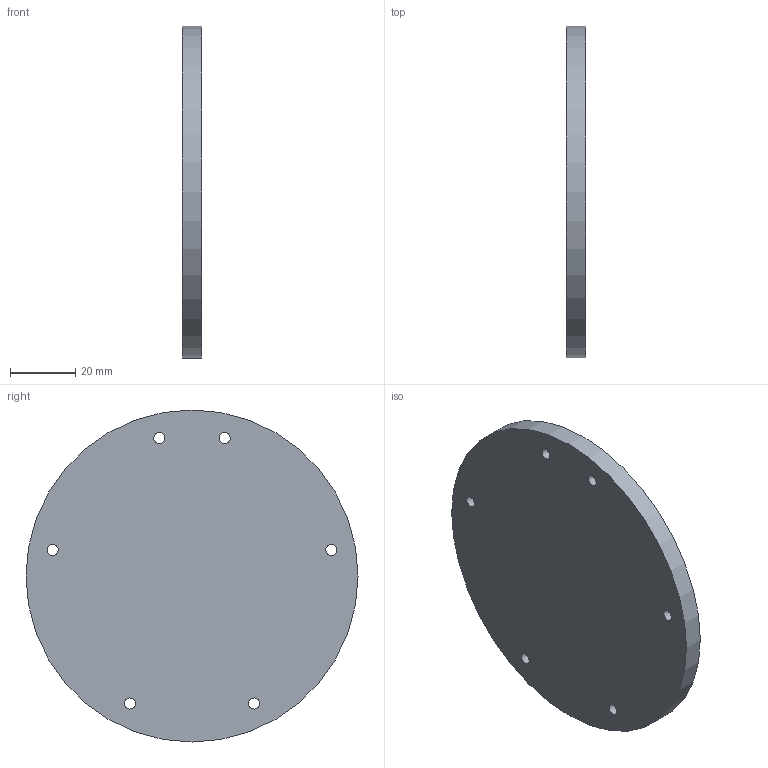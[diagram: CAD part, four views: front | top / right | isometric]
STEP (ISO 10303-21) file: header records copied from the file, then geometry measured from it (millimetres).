
FILE_DESCRIPTION(('Open CASCADE Model'),'2;1');
FILE_NAME('Open CASCADE Shape Model','2026-11-20T22:44:43',('Author'),( 'Open CASCADE'),'Open CASCADE STEP processor 7.8','Open CASCADE 7.8' ,'Unknown');
FILE_SCHEMA(('AUTOMOTIVE_DESIGN { 1 0 10303 214 1 1 1 1 }'));
Length unit declared in the file: millimetre
Products named in the file (1): Open CASCADE STEP translator 7.8 3
Bounding box: 6 x 101.6 x 101.6 mm (x, y, z)
Volume: 48317.1 mm3; surface area: 18405.3 mm2
Topology: 1 solids, 1 shells, 9 faces, 21 edges, 14 vertices
Faces by surface type: cylinder 7, plane 2
Full cylindrical faces by diameter (mm): 3.4 x6, 101.6 x1
Entity records: 576 total; most frequent: DIRECTION 97, CARTESIAN_POINT 87, ORIENTED_EDGE 42, PCURVE 42, DEFINITIONAL_REPRESENTATION 42, LINE 35, VECTOR 35, CIRCLE 28
